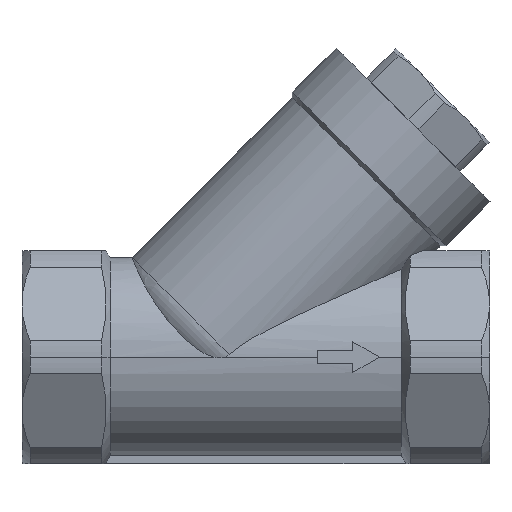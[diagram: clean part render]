
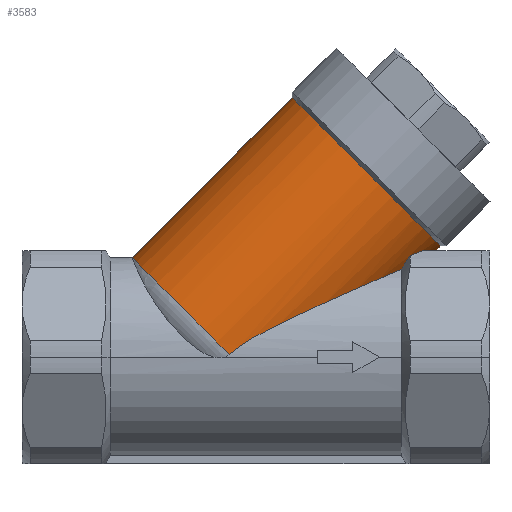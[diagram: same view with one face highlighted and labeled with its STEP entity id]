
A CAD part, top view. The second image highlights one B-rep face of the part: STEP entity #3583.
In plain terms, the highlighted cylindrical face has radius 23.75 mm (diameter 47.5 mm), a partial arc.
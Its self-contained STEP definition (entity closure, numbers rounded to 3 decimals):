
#43 = CARTESIAN_POINT ( 'NONE',  ( 25.587, 76.187, 0. ) ) ;
#85 = CARTESIAN_POINT ( 'NONE',  ( 34.963, 23.036, 12.055 ) ) ;
#157 = EDGE_CURVE ( 'NONE', #1859, #1317, #752, .T. ) ;
#196 = AXIS2_PLACEMENT_3D ( 'NONE', #3139, #2978, #2963 ) ;
#222 = CARTESIAN_POINT ( 'NONE',  ( 17.153, 13.038, 18.484 ) ) ;
#236 = DIRECTION ( 'NONE',  ( 0.707, 0.707, 0. ) ) ;
#240 = CARTESIAN_POINT ( 'NONE',  ( 20.488, 14.521, 17.343 ) ) ;
#261 = EDGE_CURVE ( 'NONE', #2178, #1859, #2794, .T. ) ;
#267 = CARTESIAN_POINT ( 'NONE',  ( 22.148, 15.251, 16.708 ) ) ;
#269 = CARTESIAN_POINT ( 'NONE',  ( -28., 22.6, 0. ) ) ;
#289 = CARTESIAN_POINT ( 'NONE',  ( 25.393, 16.671, 15.292 ) ) ;
#323 = EDGE_CURVE ( 'NONE', #580, #2404, #2649, .T. ) ;
#326 = AXIS2_PLACEMENT_3D ( 'NONE', #3091, #236, #1060 ) ;
#346 = ORIENTED_EDGE ( 'NONE', *, *, #323, .F. ) ;
#394 = CARTESIAN_POINT ( 'NONE',  ( 40.725, 24.15, 3.33 ) ) ;
#457 = EDGE_CURVE ( 'NONE', #2404, #2745, #1850, .T. ) ;
#495 = CARTESIAN_POINT ( 'NONE',  ( 26.984, 17.362, 14.51 ) ) ;
#513 = FACE_OUTER_BOUND ( 'NONE', #1944, .T. ) ;
#519 = CARTESIAN_POINT ( 'NONE',  ( 29.302, 18.365, 13.183 ) ) ;
#545 = CARTESIAN_POINT ( 'NONE',  ( 30.063, 18.694, 12.714 ) ) ;
#555 = AXIS2_PLACEMENT_3D ( 'NONE', #2910, #2821, #2685 ) ;
#580 = VERTEX_POINT ( 'NONE', #678 ) ;
#657 = DIRECTION ( 'NONE',  ( 0.707, 0.707, 0. ) ) ;
#678 = CARTESIAN_POINT ( 'NONE',  ( 34.963, 23.036, 12.055 ) ) ;
#752 = CIRCLE ( 'NONE', #196, 23.75 ) ;
#765 = CARTESIAN_POINT ( 'NONE',  ( 33.655, 20.972, 11.112 ) ) ;
#777 = CARTESIAN_POINT ( 'NONE',  ( 31.556, 19.337, 11.713 ) ) ;
#798 = CARTESIAN_POINT ( 'NONE',  ( 37.839, 24.15, 9.632 ) ) ;
#799 = EDGE_CURVE ( 'NONE', #2178, #2745, #3055, .T. ) ;
#823 = CARTESIAN_POINT ( 'NONE',  ( 33., 19.958, 10.603 ) ) ;
#999 = ORIENTED_EDGE ( 'NONE', *, *, #457, .F. ) ;
#1031 = ORIENTED_EDGE ( 'NONE', *, *, #157, .F. ) ;
#1060 = DIRECTION ( 'NONE',  ( -0.707, 0.707, 0. ) ) ;
#1078 = VECTOR ( 'NONE', #1978, 1000. ) ;
#1079 = CARTESIAN_POINT ( 'NONE',  ( 32.287, 19.652, 11.179 ) ) ;
#1317 = VERTEX_POINT ( 'NONE', #1946 ) ;
#1388 = CARTESIAN_POINT ( 'NONE',  ( 33., 19.958, 10.603 ) ) ;
#1529 = ORIENTED_EDGE ( 'NONE', *, *, #3300, .T. ) ;
#1561 = EDGE_CURVE ( 'NONE', #3009, #580, #3479, .T. ) ;
#1622 = CARTESIAN_POINT ( 'NONE',  ( 40.725, 24.15, 0. ) ) ;
#1638 = ORIENTED_EDGE ( 'NONE', *, *, #799, .T. ) ;
#1662 =( BOUNDED_CURVE ( )  B_SPLINE_CURVE ( 3, ( #3545, #2688, #394, #2410 ),
 .UNSPECIFIED., .F., .F. ) 
 B_SPLINE_CURVE_WITH_KNOTS ( ( 4, 4 ),
 ( 5.866, 6.283 ),
 .UNSPECIFIED. ) 
 CURVE ( )  GEOMETRIC_REPRESENTATION_ITEM ( )  RATIONAL_B_SPLINE_CURVE ( ( 1., 0.986, 0.986, 1. ) ) 
 REPRESENTATION_ITEM ( '' )  );
#1670 = CARTESIAN_POINT ( 'NONE',  ( 59.175, 42.6, 0. ) ) ;
#1714 = ORIENTED_EDGE ( 'NONE', *, *, #3611, .T. ) ;
#1850 = B_SPLINE_CURVE_WITH_KNOTS ( 'NONE', 3,
 ( #823, #1079, #777, #545, #519, #495, #289, #267, #240, #222, #3696, #3683, #3424, #2514, #3382, #3151, #3658, #3393, #3439, #3672, #3134, #3107, #2858, #2293 ),
 .UNSPECIFIED., .F., .F.,
 ( 4, 2, 2, 2, 2, 2, 2, 2, 2, 2, 2, 4 ),
 ( 0., 0.003, 0.006, 0.011, 0.017, 0.023, 0.029, 0.034, 0.037, 0.04, 0.043, 0.046 ),
 .UNSPECIFIED. ) ;
#1859 = VERTEX_POINT ( 'NONE', #2342 ) ;
#1944 = EDGE_LOOP ( 'NONE', ( #1529, #1714, #1031, #2056, #1638, #999, #346, #2638 ) ) ;
#1946 = CARTESIAN_POINT ( 'NONE',  ( 41.851, 25.275, 0. ) ) ;
#1978 = DIRECTION ( 'NONE',  ( 0.707, 0.707, 0. ) ) ;
#2003 = CARTESIAN_POINT ( 'NONE',  ( 34.963, 23.036, 12.055 ) ) ;
#2056 = ORIENTED_EDGE ( 'NONE', *, *, #261, .F. ) ;
#2088 = CARTESIAN_POINT ( 'NONE',  ( 33., 19.958, 10.603 ) ) ;
#2178 = VERTEX_POINT ( 'NONE', #269 ) ;
#2293 = CARTESIAN_POINT ( 'NONE',  ( -6.025, 0.625, 22.591 ) ) ;
#2342 = CARTESIAN_POINT ( 'NONE',  ( 8.263, 58.863, 0. ) ) ;
#2343 = CARTESIAN_POINT ( 'NONE',  ( 35.97, 23.425, 11.313 ) ) ;
#2398 = CARTESIAN_POINT ( 'NONE',  ( -6.025, 0.625, 22.591 ) ) ;
#2404 = VERTEX_POINT ( 'NONE', #2088 ) ;
#2410 = CARTESIAN_POINT ( 'NONE',  ( 40.725, 24.15, 0. ) ) ;
#2514 = CARTESIAN_POINT ( 'NONE',  ( 7.026, 8.359, 21.016 ) ) ;
#2638 = ORIENTED_EDGE ( 'NONE', *, *, #1561, .F. ) ;
#2649 = B_SPLINE_CURVE_WITH_KNOTS ( 'NONE', 3,
 ( #85, #3468, #765, #1388 ),
 .UNSPECIFIED., .F., .F.,
 ( 4, 4 ),
 ( 0., 0.004 ),
 .UNSPECIFIED. ) ;
#2685 = DIRECTION ( 'NONE',  ( -0.707, 0.707, 0. ) ) ;
#2688 = CARTESIAN_POINT ( 'NONE',  ( 39.749, 24.15, 6.588 ) ) ;
#2745 = VERTEX_POINT ( 'NONE', #2398 ) ;
#2794 = LINE ( 'NONE', #43, #3453 ) ;
#2821 = DIRECTION ( 'NONE',  ( 0.707, 0.707, 0. ) ) ;
#2858 = CARTESIAN_POINT ( 'NONE',  ( -5.312, 1.261, 22.574 ) ) ;
#2867 = CARTESIAN_POINT ( 'NONE',  ( 37.839, 24.15, 9.632 ) ) ;
#2883 = CARTESIAN_POINT ( 'NONE',  ( 36.935, 23.799, 10.513 ) ) ;
#2910 = CARTESIAN_POINT ( 'NONE',  ( -11.206, 5.806, 0. ) ) ;
#2963 = DIRECTION ( 'NONE',  ( -0.707, 0.707, 0. ) ) ;
#2978 = DIRECTION ( 'NONE',  ( 0.707, 0.707, 0. ) ) ;
#3009 = VERTEX_POINT ( 'NONE', #798 ) ;
#3055 = CIRCLE ( 'NONE', #555, 23.75 ) ;
#3091 = CARTESIAN_POINT ( 'NONE',  ( 42.381, 59.393, 0. ) ) ;
#3107 = CARTESIAN_POINT ( 'NONE',  ( -4.552, 1.839, 22.532 ) ) ;
#3134 = CARTESIAN_POINT ( 'NONE',  ( -2.982, 2.929, 22.416 ) ) ;
#3139 = CARTESIAN_POINT ( 'NONE',  ( 25.057, 42.069, 0. ) ) ;
#3151 = CARTESIAN_POINT ( 'NONE',  ( 2.799, 6.238, 21.727 ) ) ;
#3300 = EDGE_CURVE ( 'NONE', #3009, #3543, #1662, .T. ) ;
#3382 = CARTESIAN_POINT ( 'NONE',  ( 5.331, 7.534, 21.326 ) ) ;
#3386 = CYLINDRICAL_SURFACE ( 'NONE', #326, 23.75 ) ;
#3393 = CARTESIAN_POINT ( 'NONE',  ( 0.289, 4.888, 22.07 ) ) ;
#3424 = CARTESIAN_POINT ( 'NONE',  ( 10.412, 9.967, 20.303 ) ) ;
#3439 = CARTESIAN_POINT ( 'NONE',  ( -0.539, 4.42, 22.169 ) ) ;
#3453 = VECTOR ( 'NONE', #657, 1000. ) ;
#3468 = CARTESIAN_POINT ( 'NONE',  ( 34.309, 21.999, 11.595 ) ) ;
#3479 = B_SPLINE_CURVE_WITH_KNOTS ( 'NONE', 3,
 ( #2867, #2883, #2343, #2003 ),
 .UNSPECIFIED., .F., .F.,
 ( 4, 4 ),
 ( 0., 0.004 ),
 .UNSPECIFIED. ) ;
#3543 = VERTEX_POINT ( 'NONE', #1622 ) ;
#3545 = CARTESIAN_POINT ( 'NONE',  ( 37.839, 24.15, 9.632 ) ) ;
#3573 = LINE ( 'NONE', #1670, #1078 ) ;
#3583 = ADVANCED_FACE ( 'NONE', ( #513 ), #3386, .T. ) ;
#3611 = EDGE_CURVE ( 'NONE', #3543, #1317, #3573, .T. ) ;
#3658 = CARTESIAN_POINT ( 'NONE',  ( 1.958, 5.797, 21.849 ) ) ;
#3672 = CARTESIAN_POINT ( 'NONE',  ( -2.174, 3.441, 22.342 ) ) ;
#3683 = CARTESIAN_POINT ( 'NONE',  ( 12.104, 10.749, 19.9 ) ) ;
#3696 = CARTESIAN_POINT ( 'NONE',  ( 15.474, 12.285, 18.99 ) ) ;
